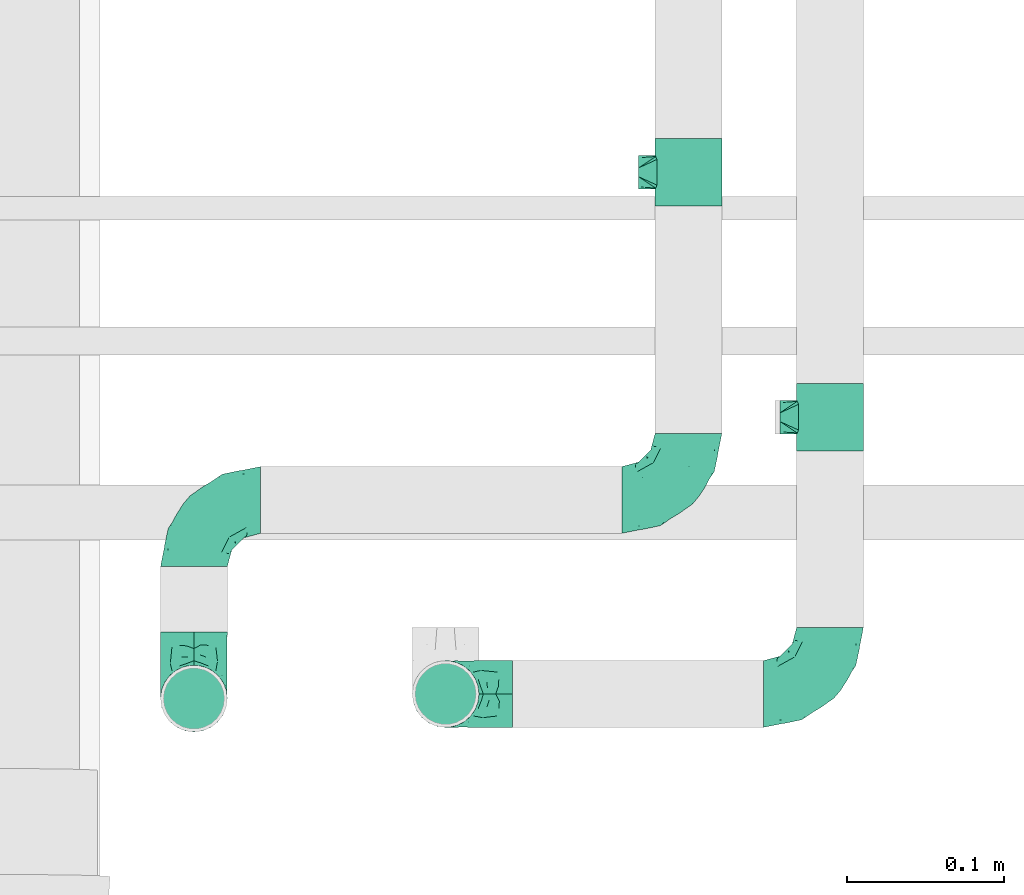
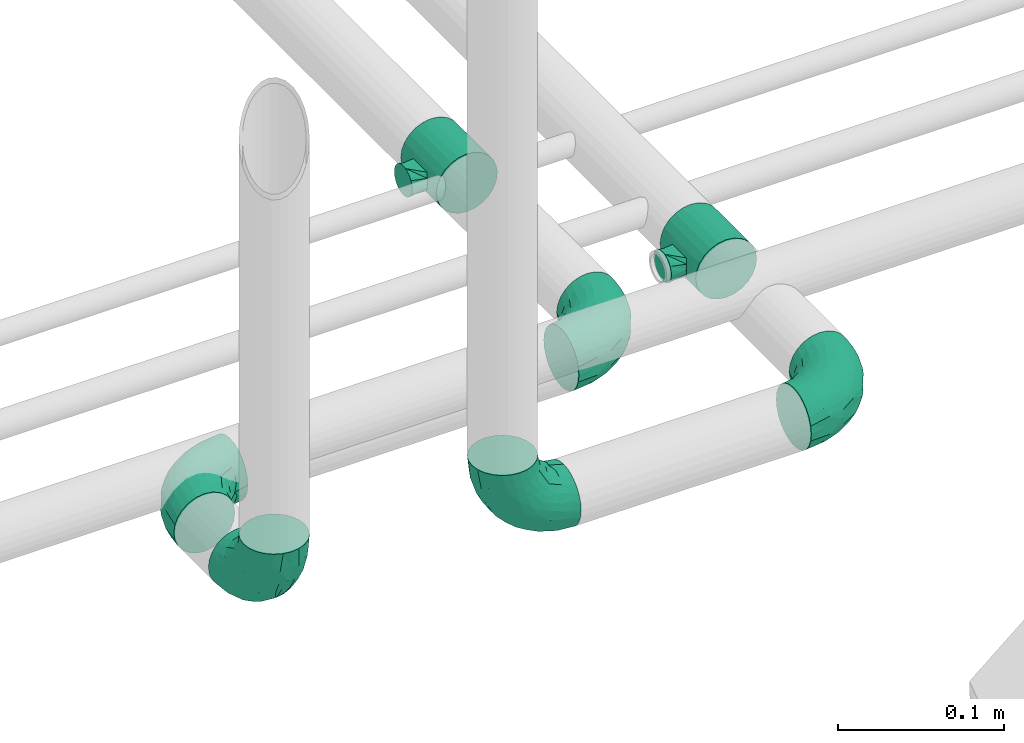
# One storey, part 88 of 156: 7 flow fittings.
"""IFC2X3 building model written with IfcOpenShell, lengths in millimetres."""

from ifc_helpers import new_model, entity, si_unit, converted_unit, derived_unit, direction, frame, origin_with_axes, place, context, subcontext, project, spatial, open_shell, surface_model, source, transform, mapped, type_object, element, save


model = new_model("IFC2X3")

# Units and contexts
model_context = context("Model", 3, precision=0.01, world=frame((0.0, 4.29681676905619e-09, 0.0)), true_north=direction((4.01073788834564e-13, 1.0)))
plan_context = context("Plan", 3, precision=0.01, world=frame((0.0, 4.29681676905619e-09, 0.0)), true_north=direction((4.01073788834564e-13, 1.0)))
body_context = subcontext(model_context, "Body", "Model", "MODEL_VIEW")
ifc_project = project(units=[converted_unit("PLANEANGLEUNIT", "DEGREE", entity("IfcPositiveLengthMeasure", 0.0174532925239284), si_unit("PLANEANGLEUNIT", "RADIAN"), dimensions=[0, 0, 0, 0, 0, 0, 0]), si_unit("AREAUNIT", "SQUARE_METRE"), si_unit("LENGTHUNIT", "METRE", prefix="MILLI"), si_unit("MASSUNIT", "GRAM", prefix="KILO"), si_unit("POWERUNIT", "WATT"), si_unit("PRESSUREUNIT", "PASCAL", prefix="KILO"), si_unit("FORCEUNIT", "NEWTON", prefix="KILO"), si_unit("ELECTRICVOLTAGEUNIT", "VOLT"), si_unit("ELECTRICCURRENTUNIT", "AMPERE"), si_unit("THERMODYNAMICTEMPERATUREUNIT", "DEGREE_CELSIUS"), si_unit("TIMEUNIT", "SECOND"), si_unit("VOLUMEUNIT", "CUBIC_METRE"), derived_unit("LINEARVELOCITYUNIT", [(si_unit("LENGTHUNIT", "METRE"), 1), (si_unit("TIMEUNIT", "SECOND"), -1)]), derived_unit("VOLUMETRICFLOWRATEUNIT", [(si_unit("VOLUMEUNIT", "CUBIC_METRE"), 1), (si_unit("TIMEUNIT", "SECOND"), -1)]), derived_unit("THERMALTRANSMITTANCEUNIT", [(si_unit("POWERUNIT", "WATT"), 1), (si_unit("THERMODYNAMICTEMPERATUREUNIT", "KELVIN"), -1), (si_unit("AREAUNIT", "SQUARE_METRE"), -1)]), derived_unit("SOUNDPRESSUREUNIT", [(si_unit("PRESSUREUNIT", "PASCAL"), 1)])], contexts=[model_context, plan_context])

# Site, building, storey
site_placement = place(None, frame((0.0, -4.29681676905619e-09, 0.0), z_axis=(0.0, 0.0, 1.0), x_axis=(1.0, 0.0, 0.0)))
site = spatial("IfcSite", under=ifc_project, at=site_placement, CompositionType="ELEMENT")
building_placement = place(site_placement, frame((0.0, 4.29681676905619e-09, 0.0), z_axis=(0.0, 0.0, 1.0), x_axis=(1.0, 0.0, 0.0)))
building = spatial("IfcBuilding", under=site, at=building_placement, Name="mc-building", CompositionType="ELEMENT")
storey_placement = place(building_placement, frame((0.0, 0.0, 205200.0), z_axis=(0.0, 0.0, 1.0), x_axis=(1.0, 0.0, 0.0)))
storey = spatial("IfcBuildingStorey", under=building, at=storey_placement, Name="Nivå D + 1,2 m", CompositionType="ELEMENT", Elevation=205200.0)

# Flow fittings
pipe_fitting_type_1 = type_object("IfcPipeFittingType", Name="magi_pipe_fe_elbow_short_001", PredefinedType="BEND")
shared_shape_1 = source(origin_with_axes(), body_context, "Body", "SurfaceModel", [
    surface_model("IfcShellBasedSurfaceModel", [(-42.4, 10.6, -18.35974), (-42.4, 5.48696, -20.47763), (-42.4, 0.0, -21.2), (-42.4, 14.99066, -14.99066), (-42.4, 20.47763, -5.48696), (-42.4, 18.35974, -10.6), (-42.4, -14.99066, 14.99066), (-42.4, -21.2, 0.0), (-42.4, -10.6, -18.35974), (-42.4, -14.99066, -14.99066), (-42.4, -5.48696, -20.47763), (-42.4, -18.35974, -10.6), (-42.4, -20.47763, -5.48696), (-42.4, 10.6, 18.35974), (-42.4, 20.47763, 5.48696), (-42.4, 18.35974, 10.6), (-42.4, 14.99066, 14.99066), (-42.4, 5.48696, 20.47763), (-42.4, 0.0, 21.2), (-42.4, -20.47763, 5.48696), (-42.4, -18.35974, 10.6), (-42.4, -10.6, 18.35974), (-42.4, -5.48696, 20.47763), (-42.4, 21.2, 0.0), (0.0, 42.4, -21.2), (-5.48696, 42.4, -20.47763), (-10.6, 42.4, -18.35974), (-14.99066, 42.4, -14.99066), (-18.35974, 42.4, -10.6), (-20.47763, 42.4, -5.48696), (21.2, 42.4, 0.0), (5.48696, 42.4, -20.47763), (14.99066, 42.4, -14.99066), (10.6, 42.4, -18.35974), (18.35974, 42.4, -10.6), (20.47763, 42.4, -5.48696), (14.99066, 42.4, 14.99066), (-20.47763, 42.4, 5.48696), (-10.6, 42.4, 18.35974), (-14.99066, 42.4, 14.99066), (-18.35974, 42.4, 10.6), (-5.48696, 42.4, 20.47763), (0.0, 42.4, 21.2), (18.35974, 42.4, 10.6), (20.47763, 42.4, 5.48696), (5.48696, 42.4, 20.47763), (10.6, 42.4, 18.35974), (-21.2, 42.4, 0.0), (-31.10239, -16.47009, 11.90111), (-27.83957, -12.231, 15.79732), (-30.23067, -18.77937, 0.0), (-18.74048, -13.50096, 10.69998), (-28.17586, -18.50359, 6.61185), (18.50359, 28.17586, 6.61185), (14.95929, 16.60735, 5.43468), (16.35874, 18.06133, 0.0), (-20.72313, 33.83635, 9.21426), (-17.70981, 33.00599, 13.92769), (-31.16033, -8.01664, 19.07348), (-32.38682, -2.80842, 20.83743), (-29.68688, 3.24967, 21.16387), (-7.74467, -9.46536, 0.0), (-16.60735, -14.95929, 5.43468), (-18.06133, -16.35874, 0.0), (-16.37932, -5.14532, 17.61254), (-21.10659, -0.19025, 20.54817), (-1.82445, -3.58377, 9.55223), (-0.35533, 0.43745, 12.66367), (-7.20655, -5.07682, 13.06146), (-33.14056, 17.6728, 13.91288), (-7.36799, 20.84806, 21.16196), (-15.70315, 15.70315, 20.68489), (-12.62356, 9.26422, 21.0908), (-36.67879, 12.83836, 17.27427), (-7.91358, 36.5686, 19.85759), (-2.90555, 31.71221, 21.14793), (-33.84689, 20.71971, 9.21285), (-33.51649, 22.58113, 4.66115), (-26.3226, 26.3226, 7.92474), (-32.67995, 8.31454, 20.02643), (-5.53379, 14.19921, 20.81623), (-10.53385, 3.88918, 19.79653), (-2.16577, 11.45378, 19.48254), (-3.78693, 3.78693, 17.3328), (12.231, 27.83957, 15.79732), (13.50096, 18.74047, 10.69998), (16.47009, 31.10239, 11.90111), (-22.53806, 14.38475, 19.60876), (-23.29615, 9.08095, 20.82061), (2.80842, 32.38682, 20.83743), (8.01664, 31.16033, 19.07348), (5.14532, 16.37932, 17.61254), (18.77937, 30.23067, 0.0), (-20.80278, 5.19491, 21.19095), (-19.62579, 22.38752, 17.42006), (-29.19336, 14.39093, 17.85259), (-22.31569, 34.20044, 4.54807), (-26.56962, 27.80621, 3.73106), (9.67657, 17.17133, 14.49993), (-24.04026, 31.8, 0.0), (-9.16861, 28.72652, 20.19004), (-12.09761, 21.9456, 20.37969), (-15.36991, 27.40112, 17.818), (-16.88976, 20.52477, 19.2896), (-12.95169, 35.54896, 17.36222), (-17.17133, -9.67657, 14.49993), (-21.98655, 28.10245, 11.99898), (-22.34699, 23.67592, 15.01692), (-27.22822, 22.77969, 11.82161), (0.19025, 21.10658, 20.54817), (4.8276, 7.36347, 13.42842), (-10.06209, -9.46364, 9.95114), (1.25876, -2.7536, 5.73797), (6.43781, 3.77591, 7.40371), (6.57528, 2.20066, 3.17705), (10.91934, 8.84313, 5.00748), (10.64415, 10.99764, 8.89767), (-31.8, 24.04026, 0.0), (-5.71381, -8.43063, 6.15529), (2.57199, -2.57199, 0.0), (9.46536, 7.74467, 0.0), (-17.17133, -9.67657, -14.49993), (-27.83957, -12.231, -15.79732), (-16.37932, -5.14532, -17.61254), (-18.74048, -13.50096, -10.69998), (-33.00599, 17.70981, -13.92769), (-35.54896, 12.95169, -17.36222), (-34.20044, 22.31569, -4.54807), (-28.17586, -18.50359, -6.61185), (-26.3226, 26.3226, -7.92474), (-33.83635, 20.72313, -9.21426), (-16.60735, -14.95929, -5.43468), (-20.52477, 16.88976, -19.2896), (-21.9456, 12.0976, -20.37969), (-27.40112, 15.36991, -17.818), (-12.83836, 36.67879, -17.27427), (-17.6728, 33.14056, -13.91288), (8.01664, 31.16033, -19.07348), (5.14532, 16.37932, -17.61254), (0.19025, 21.10658, -20.54817), (-36.5686, 7.91358, -19.85759), (-31.10239, -16.47009, -11.90111), (-31.16033, -8.01664, -19.07348), (-14.38475, 22.53806, -19.60876), (-8.31454, 32.67995, -20.02643), (-9.08095, 23.29615, -20.82061), (-32.38682, -2.80842, -20.83743), (-20.84806, 7.36799, -21.16196), (-15.70315, 15.70314, -20.68489), (-9.26422, 12.62356, -21.0908), (-31.71221, 2.90555, -21.14793), (-22.58113, 33.51649, -4.66115), (-20.71971, 33.84689, -9.21285), (-28.72652, 9.16861, -20.19004), (-27.80621, 26.56962, -3.73106), (-5.19491, 20.80278, -21.19095), (-22.38752, 19.62579, -17.42006), (-14.39093, 29.19336, -17.85259), (2.80842, 32.38682, -20.83743), (-3.24967, 29.68688, -21.16387), (16.47009, 31.10239, -11.90111), (12.231, 27.83957, -15.79732), (6.57528, 2.20067, -3.17705), (10.91934, 8.84313, -5.00749), (-14.19921, 5.53379, -20.81623), (-3.88918, 10.53385, -19.79653), (-11.45378, 2.16577, -19.48254), (1.25876, -2.7536, -5.73797), (-5.71381, -8.43063, -6.15529), (-1.82445, -3.58377, -9.55223), (13.50096, 18.74048, -10.69998), (18.50359, 28.17586, -6.61185), (14.95929, 16.60735, -5.43468), (-28.10245, 21.98655, -11.99898), (9.67657, 17.17133, -14.49993), (10.64415, 10.99764, -8.89767), (4.8276, 7.36347, -13.42842), (-23.67592, 22.34699, -15.01692), (-22.77969, 27.22822, -11.82161), (-21.10658, -0.19025, -20.54817), (-3.78693, 3.78693, -17.3328), (-7.20655, -5.07682, -13.06146), (-10.06209, -9.46364, -9.95113), (-0.35533, 0.43745, -12.66367), (6.43781, 3.77591, -7.40371)], [open_shell([[[0, 1, 2]], [[3, 0, 2]], [[4, 5, 3]], [[2, 4, 3]], [[6, 2, 7]], [[8, 9, 10]], [[11, 10, 9]], [[12, 7, 11]], [[2, 10, 11]], [[11, 7, 2]], [[6, 4, 2]], [[13, 14, 4]], [[15, 14, 16]], [[4, 6, 13]], [[16, 14, 13]], [[17, 13, 18]], [[19, 20, 7]], [[7, 20, 6]], [[21, 22, 6]], [[18, 6, 22]], [[6, 18, 13]], [[23, 4, 14]], [[24, 25, 26]], [[24, 26, 27]], [[27, 28, 29]], [[27, 29, 24]], [[24, 29, 30]], [[31, 32, 33]], [[31, 24, 32]], [[34, 30, 35]], [[32, 24, 34]], [[24, 30, 34]], [[29, 36, 30]], [[29, 37, 38]], [[39, 37, 40]], [[36, 29, 38]], [[38, 37, 39]], [[41, 42, 38]], [[30, 43, 44]], [[36, 43, 30]], [[36, 45, 46]], [[45, 36, 42]], [[38, 42, 36]], [[37, 29, 47]], [[6, 48, 49]], [[19, 7, 50]], [[51, 48, 52]], [[53, 54, 55]], [[48, 6, 20]], [[19, 52, 20]], [[40, 56, 57]], [[49, 21, 6]], [[49, 58, 21]], [[18, 59, 60]], [[61, 62, 63]], [[58, 64, 65]], [[66, 67, 68]], [[15, 16, 69]], [[70, 71, 72]], [[13, 73, 16]], [[22, 59, 18]], [[41, 74, 75]], [[18, 60, 17]], [[15, 69, 76]], [[16, 73, 69]], [[23, 14, 77]], [[14, 15, 76]], [[77, 76, 78]], [[17, 79, 13]], [[80, 81, 82]], [[68, 83, 64]], [[84, 36, 46]], [[85, 86, 84]], [[87, 79, 88]], [[21, 58, 22]], [[42, 89, 45]], [[53, 44, 43]], [[42, 41, 75]], [[84, 90, 91]], [[43, 86, 53]], [[92, 44, 53]], [[86, 43, 36]], [[90, 46, 45]], [[53, 55, 92]], [[88, 93, 72]], [[54, 53, 85]], [[87, 94, 95]], [[78, 96, 97]], [[98, 84, 91]], [[99, 96, 47]], [[79, 17, 60]], [[96, 78, 56]], [[62, 52, 63]], [[57, 39, 40]], [[100, 70, 75]], [[101, 102, 103]], [[19, 50, 52]], [[104, 38, 39]], [[74, 41, 38]], [[57, 102, 104]], [[105, 64, 49]], [[90, 84, 46]], [[40, 37, 56]], [[56, 106, 57]], [[102, 57, 107]], [[95, 107, 69]], [[76, 108, 78]], [[100, 101, 70]], [[89, 75, 109]], [[64, 58, 49]], [[63, 52, 50]], [[59, 58, 65]], [[105, 49, 51]], [[64, 83, 81]], [[89, 90, 45]], [[30, 44, 92]], [[109, 82, 91]], [[109, 91, 90]], [[91, 83, 110]], [[111, 68, 105]], [[66, 68, 111]], [[62, 51, 52]], [[66, 112, 113]], [[114, 115, 113]], [[98, 85, 84]], [[52, 48, 20]], [[49, 48, 51]], [[84, 86, 36]], [[53, 86, 85]], [[88, 79, 60]], [[73, 79, 95]], [[96, 56, 37]], [[78, 108, 106]], [[87, 103, 94]], [[100, 74, 104]], [[108, 69, 107]], [[78, 97, 77]], [[88, 72, 71]], [[109, 75, 70]], [[81, 72, 65]], [[70, 72, 80]], [[75, 89, 42]], [[90, 89, 109]], [[58, 59, 22]], [[60, 59, 65]], [[67, 83, 68]], [[110, 113, 116]], [[88, 60, 93]], [[87, 88, 71]], [[103, 87, 71]], [[79, 87, 95]], [[101, 103, 71]], [[94, 103, 102]], [[47, 96, 37]], [[96, 99, 97]], [[99, 117, 97]], [[97, 117, 77]], [[23, 77, 117]], [[14, 76, 77]], [[60, 65, 93]], [[65, 72, 93]], [[70, 101, 71]], [[102, 101, 100]], [[69, 108, 76]], [[106, 108, 107]], [[57, 106, 107]], [[78, 106, 56]], [[57, 104, 39]], [[100, 104, 102]], [[102, 107, 94]], [[95, 94, 107]], [[64, 81, 65]], [[82, 81, 83]], [[91, 82, 83]], [[80, 82, 109]], [[70, 80, 109]], [[81, 80, 72]], [[79, 73, 13]], [[69, 73, 95]], [[104, 74, 38]], [[75, 74, 100]], [[62, 61, 118]], [[111, 62, 118]], [[113, 115, 116]], [[119, 118, 61]], [[111, 105, 51]], [[113, 112, 114]], [[120, 55, 54]], [[68, 64, 105]], [[91, 110, 98]], [[116, 98, 110]], [[62, 111, 51]], [[66, 111, 118]], [[112, 66, 118]], [[67, 113, 110]], [[118, 119, 112]], [[114, 112, 119]], [[119, 120, 114]], [[115, 120, 54]], [[120, 115, 114]], [[116, 54, 85]], [[54, 116, 115]], [[116, 85, 98]], [[113, 67, 66]], [[83, 67, 110]], [[121, 122, 123]], [[122, 121, 124]], [[5, 125, 3]], [[3, 126, 0]], [[117, 127, 23]], [[50, 12, 128]], [[127, 129, 130]], [[128, 131, 63]], [[132, 133, 134]], [[27, 135, 136]], [[137, 138, 139]], [[0, 140, 1]], [[128, 11, 141]], [[142, 8, 10]], [[128, 63, 50]], [[5, 4, 130]], [[11, 9, 141]], [[143, 144, 145]], [[146, 10, 2]], [[147, 148, 149]], [[11, 128, 12]], [[124, 141, 122]], [[150, 2, 1]], [[151, 152, 129]], [[125, 134, 126]], [[153, 147, 150]], [[127, 154, 129]], [[145, 155, 149]], [[47, 29, 151]], [[143, 156, 157]], [[152, 29, 28]], [[24, 158, 159]], [[122, 9, 8]], [[27, 26, 135]], [[144, 26, 25]], [[32, 160, 161]], [[24, 31, 158]], [[120, 162, 163]], [[130, 125, 5]], [[27, 136, 28]], [[1, 140, 150]], [[33, 161, 137]], [[142, 122, 8]], [[24, 159, 25]], [[164, 165, 166]], [[167, 168, 169]], [[34, 160, 32]], [[161, 33, 32]], [[170, 160, 171]], [[131, 128, 124]], [[30, 92, 35]], [[35, 92, 171]], [[172, 171, 55]], [[35, 171, 34]], [[144, 25, 159]], [[130, 173, 125]], [[174, 175, 176]], [[136, 152, 28]], [[33, 137, 31]], [[122, 142, 123]], [[134, 125, 177]], [[157, 177, 136]], [[152, 178, 129]], [[153, 133, 147]], [[146, 150, 179]], [[146, 142, 10]], [[7, 12, 50]], [[179, 166, 123]], [[179, 123, 142]], [[123, 180, 181]], [[138, 137, 161]], [[55, 171, 92]], [[158, 137, 139]], [[174, 161, 170]], [[138, 180, 165]], [[180, 138, 176]], [[124, 121, 182]], [[176, 183, 180]], [[61, 131, 168]], [[169, 168, 182]], [[172, 170, 171]], [[122, 141, 9]], [[128, 141, 124]], [[171, 160, 34]], [[161, 160, 170]], [[145, 144, 159]], [[135, 144, 157]], [[127, 130, 4]], [[129, 178, 173]], [[143, 132, 156]], [[153, 140, 126]], [[178, 136, 177]], [[129, 154, 151]], [[145, 149, 148]], [[179, 150, 147]], [[165, 149, 139]], [[147, 149, 164]], [[150, 146, 2]], [[142, 146, 179]], [[137, 158, 31]], [[159, 158, 139]], [[174, 138, 161]], [[184, 169, 183]], [[145, 159, 155]], [[143, 145, 148]], [[132, 143, 148]], [[144, 143, 157]], [[133, 132, 148]], [[156, 132, 134]], [[23, 127, 4]], [[127, 117, 154]], [[117, 99, 154]], [[154, 99, 151]], [[47, 151, 99]], [[29, 152, 151]], [[159, 139, 155]], [[139, 149, 155]], [[147, 133, 148]], [[134, 133, 153]], [[136, 178, 152]], [[173, 178, 177]], [[125, 173, 177]], [[129, 173, 130]], [[125, 126, 3]], [[153, 126, 134]], [[134, 177, 156]], [[157, 156, 177]], [[138, 165, 139]], [[166, 165, 180]], [[123, 166, 180]], [[164, 166, 179]], [[147, 164, 179]], [[165, 164, 149]], [[144, 135, 26]], [[136, 135, 157]], [[126, 140, 0]], [[150, 140, 153]], [[182, 131, 124]], [[168, 119, 61]], [[119, 167, 162]], [[63, 131, 61]], [[172, 163, 175]], [[172, 55, 120]], [[123, 181, 121]], [[182, 121, 181]], [[175, 174, 170]], [[176, 138, 174]], [[169, 182, 181]], [[131, 182, 168]], [[183, 169, 181]], [[167, 169, 184]], [[162, 167, 184]], [[119, 168, 167]], [[163, 162, 184]], [[120, 119, 162]], [[175, 163, 184]], [[120, 163, 172]], [[176, 175, 184]], [[172, 175, 170]], [[180, 183, 181]], [[184, 183, 176]]])]),
])
for number, where, z_axis, x_axis, name in (
    (1, (324853.30442, 463169.03228, 4303.5), (0.0, 0.0, 1.0), (1.0, 0.0, 0.0), "magi_pipe_fe_elbow_short_001"),
    (2, (324763.30442, 463292.4125, 4303.5), (0.0, 0.0, 1.0), (1.0, 0.0, 0.0), "magi_pipe_fe_elbow_short_001"),
    (3, (324448.8625, 463292.4125, 4303.5), (0.0, 0.0, 1.0), (-1.0, 0.0, 0.0), "magi_pipe_fe_elbow_short_001"),
    (4, (324608.8625, 463169.03228, 4303.5), (0.0, 1.0, 0.0), (-1.0, 0.0, 0.0), "magi_pipe_fe_elbow_short_001"),
    (5, (324448.8625, 463166.1423, 4303.5), (-1.0, 0.0, 0.0), (0.0, -1.0, 0.0), "magi_pipe_fe_elbow_short_001"),
):
    element("IfcFlowFitting", number, at=place(storey_placement, frame(where, z_axis=z_axis, x_axis=x_axis)), inside=storey, type_object=pipe_fitting_type_1, Name=name, context=body_context, shape_type="MappedRepresentation", body=[
        mapped(shared_shape_1, transform((0.0, 0.0, 0.0), scale=1.0)),
    ])
pipe_fitting_type_2 = type_object("IfcPipeFittingType", Name="magi_pipe_fe_tee_centric_90_001", PredefinedType="JUNCTION")
shared_shape_2 = source(origin_with_axes(), body_context, "Body", "SurfaceModel", [
    surface_model("IfcShellBasedSurfaceModel", [(-21.4, 0.0, -21.2), (-21.4, -5.48696, -20.47763), (-21.4, 5.48696, -20.47763), (-21.4, 10.6, -18.35974), (-21.4, 20.47763, -5.48696), (-21.4, 18.35974, -10.6), (-21.4, 14.99066, -14.99066), (-21.4, -14.99066, -14.99066), (-21.4, -18.35974, -10.6), (-21.4, -10.6, -18.35974), (-21.4, -20.47763, -5.48696), (-21.4, -21.2, 0.0), (-21.4, -18.35974, 10.6), (-21.4, 20.47763, 5.48696), (-21.4, 18.35974, 10.6), (-21.4, 10.6, 18.35974), (-21.4, 14.99066, 14.99066), (-21.4, 5.48696, 20.47763), (-21.4, 0.0, 21.2), (-21.4, -14.99066, 14.99066), (-21.4, -10.6, 18.35974), (-21.4, -20.47763, 5.48696), (-21.4, -5.48696, 20.47763), (-21.4, 21.2, 0.0), (21.4, 5.48696, -20.47763), (21.4, -5.48696, -20.47763), (21.4, 0.0, -21.2), (21.4, 14.99066, -14.99066), (21.4, 10.6, -18.35974), (21.4, 18.35974, -10.6), (21.4, 20.47763, -5.48696), (21.4, -21.2, 0.0), (21.4, -10.6, -18.35974), (21.4, -18.35974, -10.6), (21.4, -14.99066, -14.99066), (21.4, -20.47763, -5.48696), (21.4, -20.47763, 5.48696), (21.4, 21.2, 0.0), (21.4, 20.47763, 5.48696), (21.4, 18.35974, 10.6), (21.4, 10.6, 18.35974), (21.4, 14.99066, 14.99066), (21.4, 0.0, 21.2), (21.4, 5.48696, 20.47763), (21.4, -14.99066, 14.99066), (21.4, -18.35974, 10.6), (21.4, -10.6, 18.35974), (21.4, -5.48696, 20.47763), (21.4, -20.83881, 2.74348), (10.03754, -20.87348, 3.70644), (10.7, -21.2, 0.0), (8.17988, -20.04646, 6.8978), (1.88638, -18.3986, 10.53241), (21.4, -19.41868, 8.04348), (5.38111, -19.07633, 9.24844), (-5.38205, -19.07659, 9.24789), (-21.4, -19.41868, 8.04348), (-8.18259, -20.04756, 6.89458), (-10.03787, -20.87364, 3.70556), (-21.4, -20.83881, 2.74348), (-10.7, -21.2, 0.0), (-1.88943, -18.39891, 10.53186), (1.88638, -18.3986, -10.53241), (-21.4, -20.83881, -2.74348), (-10.03787, -20.87364, -3.70556), (5.38111, -19.07633, -9.24844), (21.4, -19.41868, -8.04348), (21.4, -20.83881, -2.74348), (10.03754, -20.87348, -3.70644), (8.17988, -20.04646, -6.8978), (-1.88943, -18.39891, -10.53186), (-5.38205, -19.07659, -9.24789), (-8.18259, -20.04756, -6.89458), (-21.4, -19.41868, -8.04348), (0.0, -31.8, -10.7), (2.76936, -31.8, -10.33541), (5.35, -31.8, -9.26647), (7.56604, -31.8, -7.56604), (10.33541, -31.8, 2.76936), (9.26647, -31.8, -5.35), (-7.56604, -31.8, -7.56604), (2.76936, -31.8, 10.33541), (-10.7, -31.8, 0.0), (-5.35, -31.8, -9.26647), (-2.76936, -31.8, -10.33541), (-9.26647, -31.8, -5.35), (-10.33541, -31.8, -2.76936), (10.7, -31.8, 0.0), (10.33541, -31.8, -2.76936), (9.26647, -31.8, 5.35), (5.35, -31.8, 9.26647), (7.56604, -31.8, 7.56604), (0.0, -31.8, 10.7), (-10.33541, -31.8, 2.76936), (-7.56604, -31.8, 7.56604), (-9.26647, -31.8, 5.35), (-2.76936, -31.8, 10.33541), (-5.35, -31.8, 9.26647)], [open_shell([[[0, 1, 2]], [[3, 2, 4]], [[4, 5, 6]], [[3, 4, 6]], [[4, 2, 1]], [[7, 8, 9]], [[1, 9, 8]], [[10, 11, 8]], [[1, 8, 12]], [[11, 12, 8]], [[4, 1, 12]], [[12, 13, 4]], [[14, 13, 15]], [[15, 13, 12]], [[16, 14, 15]], [[17, 15, 18]], [[19, 20, 12]], [[12, 11, 21]], [[22, 18, 20]], [[15, 12, 20]], [[15, 20, 18]], [[23, 4, 13]], [[24, 25, 26]], [[27, 24, 28]], [[29, 30, 24]], [[29, 24, 27]], [[31, 24, 30]], [[32, 33, 34]], [[33, 32, 25]], [[33, 31, 35]], [[31, 33, 25]], [[25, 24, 31]], [[30, 36, 31]], [[37, 38, 39]], [[37, 39, 40]], [[37, 40, 36]], [[40, 39, 41]], [[42, 40, 43]], [[36, 44, 45]], [[44, 36, 46]], [[46, 42, 47]], [[46, 36, 40]], [[40, 42, 46]], [[37, 36, 30]], [[48, 36, 49]], [[50, 31, 48]], [[36, 51, 49]], [[45, 44, 52]], [[50, 48, 49]], [[51, 53, 54]], [[52, 54, 45]], [[44, 19, 52]], [[54, 53, 45]], [[55, 56, 57]], [[58, 59, 60]], [[11, 60, 59]], [[58, 57, 21]], [[55, 61, 12]], [[51, 36, 53]], [[12, 56, 55]], [[12, 61, 19]], [[57, 56, 21]], [[61, 52, 19]], [[58, 21, 59]], [[44, 20, 19]], [[18, 47, 42]], [[22, 46, 47]], [[17, 42, 43]], [[39, 38, 13]], [[16, 40, 41]], [[14, 41, 39]], [[43, 40, 15]], [[23, 38, 37]], [[20, 46, 22]], [[22, 47, 18]], [[17, 18, 42]], [[43, 15, 17]], [[15, 40, 16]], [[14, 16, 41]], [[13, 14, 39]], [[38, 23, 13]], [[46, 20, 44]], [[5, 30, 29]], [[4, 37, 30]], [[6, 29, 27]], [[26, 25, 1]], [[2, 28, 24]], [[0, 24, 26]], [[27, 28, 3]], [[9, 25, 32]], [[23, 37, 4]], [[4, 30, 5]], [[6, 5, 29]], [[27, 3, 6]], [[3, 28, 2]], [[0, 2, 24]], [[1, 0, 26]], [[25, 9, 1]], [[32, 7, 9]], [[34, 33, 62]], [[60, 63, 64]], [[65, 62, 33]], [[66, 65, 33]], [[34, 62, 7]], [[31, 50, 67]], [[68, 69, 35]], [[68, 67, 50]], [[65, 66, 69]], [[35, 69, 66]], [[70, 71, 8]], [[72, 10, 73]], [[8, 7, 70]], [[72, 73, 71]], [[70, 7, 62]], [[72, 64, 10]], [[68, 35, 67]], [[64, 63, 10]], [[63, 60, 11]], [[73, 8, 71]], [[34, 7, 32]], [[74, 75, 76]], [[74, 76, 77]], [[78, 77, 79]], [[74, 77, 80]], [[81, 82, 77]], [[74, 83, 84]], [[74, 80, 83]], [[85, 82, 86]], [[82, 85, 80]], [[77, 82, 80]], [[87, 79, 88]], [[77, 78, 81]], [[81, 78, 89]], [[90, 81, 89]], [[90, 89, 91]], [[92, 82, 81]], [[93, 94, 95]], [[94, 93, 92]], [[94, 96, 97]], [[96, 94, 92]], [[82, 92, 93]], [[79, 87, 78]], [[60, 82, 93]], [[58, 95, 94]], [[93, 95, 60]], [[94, 97, 58]], [[60, 95, 58]], [[57, 58, 96]], [[61, 55, 54]], [[57, 51, 55]], [[96, 92, 57]], [[97, 96, 58]], [[81, 51, 92]], [[90, 49, 81]], [[49, 91, 89]], [[90, 91, 49]], [[50, 89, 78]], [[51, 54, 55]], [[52, 61, 54]], [[89, 50, 49]], [[49, 51, 81]], [[78, 87, 50]], [[57, 92, 51]], [[50, 87, 88]], [[68, 79, 77]], [[88, 79, 50]], [[68, 77, 76]], [[50, 79, 68]], [[69, 68, 75]], [[62, 65, 70]], [[69, 71, 65]], [[75, 74, 69]], [[76, 75, 68]], [[72, 74, 84]], [[83, 64, 84]], [[64, 80, 85]], [[83, 80, 64]], [[60, 85, 86]], [[72, 71, 69]], [[70, 65, 71]], [[85, 60, 64]], [[64, 72, 84]], [[86, 82, 60]], [[69, 74, 72]]])]),
])
for number, where, z_axis, x_axis, name in (
    (6, (324853.30442, 463345.02349, 4303.5), (0.0, 0.0, -1.0), (0.0, 1.0, 0.0), "magi_pipe_fe_tee_centric_90_001"),
    (7, (324763.30442, 463500.7125, 4303.5), (0.0, 0.0, -1.0), (0.0, 1.0, 0.0), "magi_pipe_fe_tee_centric_90_001"),
):
    element("IfcFlowFitting", number, at=place(storey_placement, frame(where, z_axis=z_axis, x_axis=x_axis)), inside=storey, type_object=pipe_fitting_type_2, Name=name, context=body_context, shape_type="MappedRepresentation", body=[
        mapped(shared_shape_2, transform((0.0, 0.0, 0.0), scale=1.0)),
    ])

save(model, "model.ifc")
